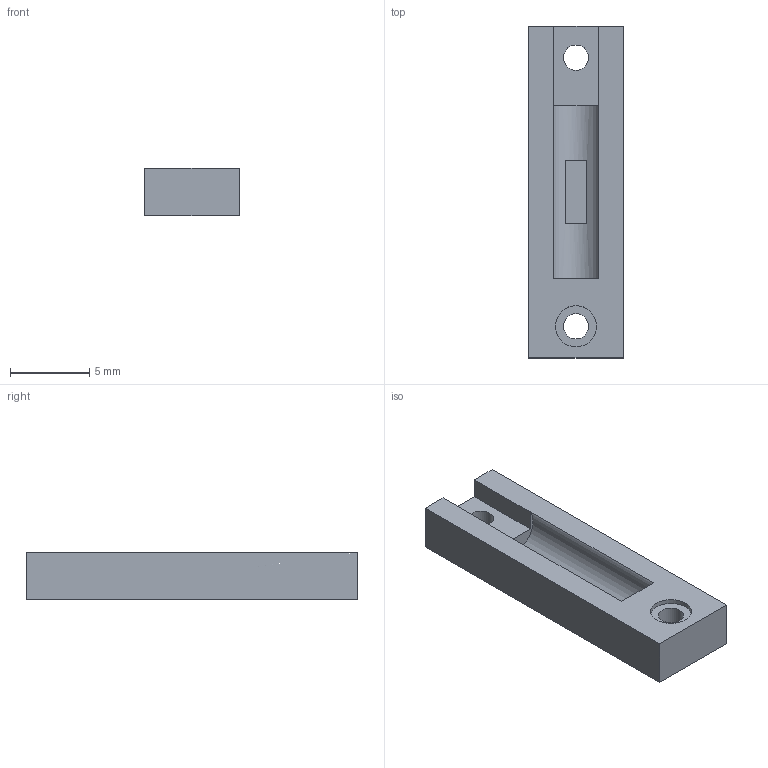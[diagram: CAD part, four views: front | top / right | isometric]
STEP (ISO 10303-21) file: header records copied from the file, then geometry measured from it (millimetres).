
FILE_DESCRIPTION(('FreeCAD Model'),'2;1');
FILE_NAME('Open CASCADE Shape Model','2026-11-13T18:42:41',('FreeCAD'),( 'FreeCAD'),'Open CASCADE STEP processor 7.8','FreeCAD','Unknown');
FILE_SCHEMA(('AUTOMOTIVE_DESIGN { 1 0 10303 214 1 1 1 1 }'));
Length unit declared in the file: millimetre
Products named in the file (1): Open CASCADE STEP translator 7.8 15
Bounding box: 6 x 21 x 3 mm (x, y, z)
Volume: 265.5 mm3; surface area: 526.4 mm2
Topology: 1 solids, 1 shells, 33 faces, 81 edges, 54 vertices
Faces by surface type: plane 29, cylinder 4
Full cylindrical faces by diameter (mm): 1.6 x2, 2.6 x1
Entity records: 983 total; most frequent: CARTESIAN_POINT 169, ORIENTED_EDGE 162, DIRECTION 159, EDGE_CURVE 81, LINE 71, VECTOR 71, VERTEX_POINT 54, AXIS2_PLACEMENT_3D 44
